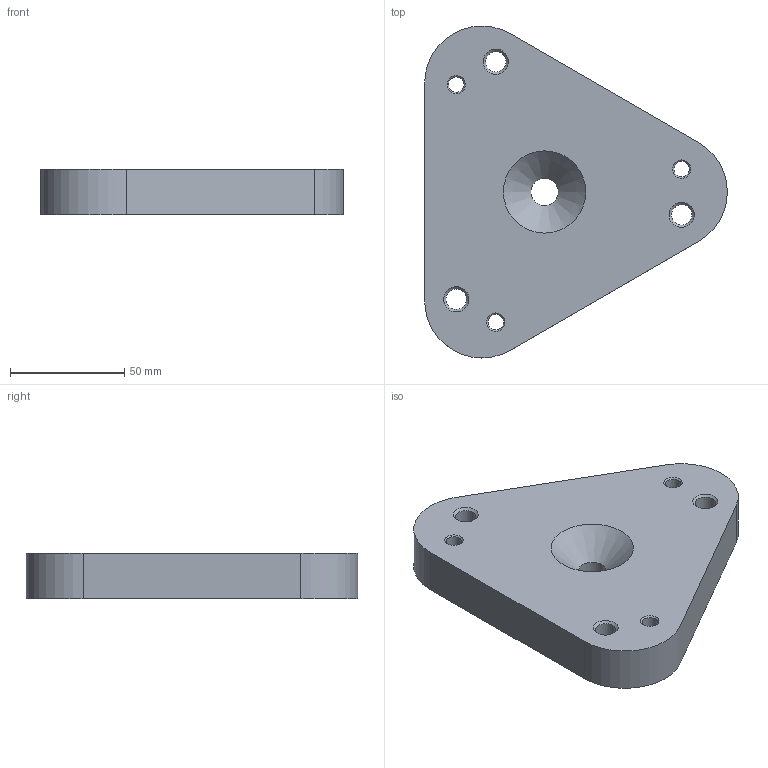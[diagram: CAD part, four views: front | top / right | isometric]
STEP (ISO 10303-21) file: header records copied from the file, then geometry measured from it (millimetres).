
FILE_DESCRIPTION(/* description */ (''),/* implementation_level */ '2;1');
FILE_NAME(/* name */ '2020TOMO-PAV-Piastra_singola_sup_v2.stp',/* time_stamp */ '2022-05-16T14:00:01+02:00',/* author */ (''),/* organization */ (''),/* preprocessor_version */ 'ST-DEVELOPER v18.102',/* originating_system */ 'SIEMENS PLM Software NX 2000',/* authorisation */ '');
FILE_SCHEMA (('AUTOMOTIVE_DESIGN { 1 0 10303 214 3 1 1 1 }'));
Length unit declared in the file: millimetre
Products named in the file (1): turc3144724Fyyid
Bounding box: 132.5 x 145.26 x 20 mm (x, y, z)
Volume: 247858.5 mm3; surface area: 37627.9 mm2
Topology: 1 solids, 1 shells, 28 faces, 77 edges, 51 vertices
Faces by surface type: cone 13, cylinder 10, plane 5
Full cylindrical faces by diameter (mm): 6.8 x3, 9 x3, 12 x1
Entity records: 815 total; most frequent: DIRECTION 148, CARTESIAN_POINT 119, ORIENTED_EDGE 90, AXIS2_PLACEMENT_3D 68, EDGE_LOOP 62, FACE_BOUND 56, EDGE_CURVE 45, VERTEX_POINT 39
